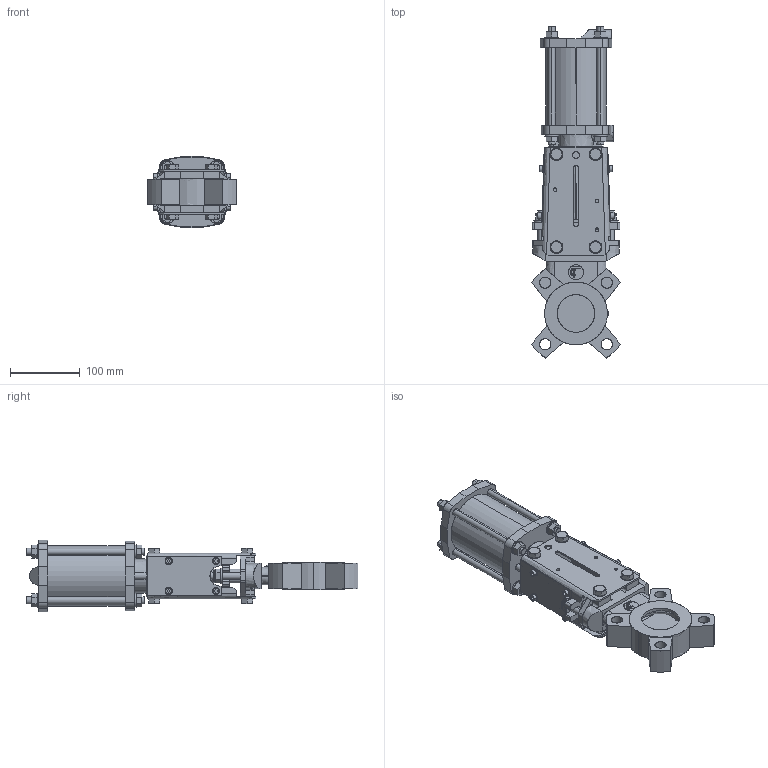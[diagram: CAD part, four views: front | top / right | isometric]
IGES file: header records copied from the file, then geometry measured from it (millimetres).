
Start section: SolidWorks IGES file using analytic representation for surfaces
Global section: file name: D:\part\3D Projects\VG-PNEUMATIC ACTUATOR(DN50-600)\VG P DN50\VG P DN50.IGS; native system: SolidWorks 2009; preprocessor: SolidWorks 2009; author: zhixin.zheng; date: 100126.152152; units: millimetre
Bounding box: 127.6 x 475.8 x 102 mm (x, y, z)
Surface area: 344454 mm2 (no closed solid volume)
Topology: 0 solids, 0 shells, 1004 faces, 12314 edges, 12314 vertices
Faces by surface type: bspline 584, revolution 420
